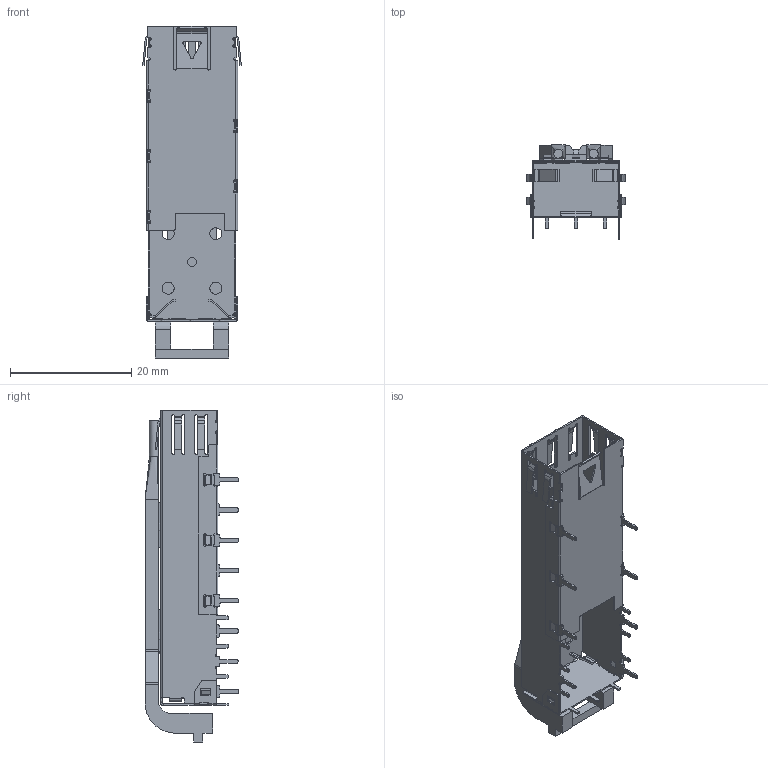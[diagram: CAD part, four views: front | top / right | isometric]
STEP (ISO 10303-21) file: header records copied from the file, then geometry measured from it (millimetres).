
FILE_DESCRIPTION(/* description */ (''),/* implementation_level */ '2;1');
FILE_NAME(/* name */ '10.87.stp',/* time_stamp */ '2025-06-27T13:44:42+08:00',/* author */ (''),/* organization */ (''),/* preprocessor_version */ 'ST-DEVELOPER v16.7',/* originating_system */ 'SIEMENS PLM Software NX 1847',/* authorisation */ '');
FILE_SCHEMA (('AUTOMOTIVE_DESIGN { 1 0 10303 214 3 1 1 1 }'));
Length unit declared in the file: millimetre
Products named in the file (1): Admi4F648C58hy2z
Bounding box: 16.3 x 15.47 x 54.82 mm (x, y, z)
Volume: 1254.6 mm3; surface area: 5903.2 mm2
Topology: 1 solids, 1 shells, 1061 faces, 3163 edges, 2064 vertices
Faces by surface type: plane 551, cylinder 478, bspline 16, torus 16
Full cylindrical faces by diameter (mm): 1.5 x4, 2 x10
Entity records: 36387 total; most frequent: CARTESIAN_POINT 6942, ORIENTED_EDGE 6294, DIRECTION 6169, EDGE_CURVE 3147, LINE 2139, VECTOR 2139, VERTEX_POINT 2062, AXIS2_PLACEMENT_3D 2015
